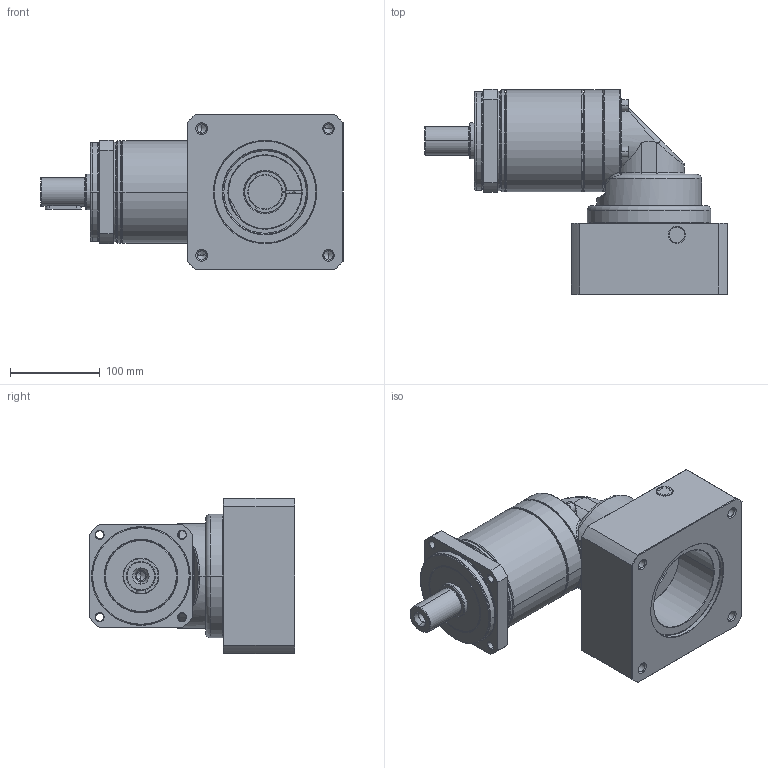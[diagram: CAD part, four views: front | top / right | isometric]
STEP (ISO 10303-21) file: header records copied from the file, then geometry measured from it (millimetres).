
FILE_DESCRIPTION((''),'2;1');
FILE_NAME('PA2R-115_2ST_38-P0411900101_ASM','2016-05-17T',('d01943'),(''),'PRO/ENGINEER BY PARAMETRIC TECHNOLOGY CORPORATION, 2008410','PRO/ENGINEER BY PARAMETRIC TECHNOLOGY CORPORATION, 2008410','');
FILE_SCHEMA(('CONFIG_CONTROL_DESIGN'));
Length unit declared in the file: millimetre
Products named in the file (12): P1327410001; P0251400001; P0350400601; P1349400001; P1017400001; P0713405001; P0503900010; P1350400501; P0411900101; P1702600001; 2111B108035; PA2R-115_2ST_38-P0411900101_ASM
Assembly tree (14 placements, depth 2):
  PA2R-115_2ST_38-P0411900101_ASM
    P1327410001
    P0251400001
    P0350400601
    P1349400001
    P1017400001
    P0713405001
    P0503900010
    P1350400501
    P0411900101
    P1702600001
    2111B108035  x4
Bounding box: 337 x 229 x 174 mm (x, y, z)
Volume: 3532773.4 mm3; surface area: 475003.2 mm2
Topology: 14 solids, 14 shells, 737 faces, 1624 edges, 938 vertices
Faces by surface type: cylinder 218, cone 214, plane 169, torus 104, bspline 32
Entity records: 23514 total; most frequent: CARTESIAN_POINT 9229, DIRECTION 3156, ORIENTED_EDGE 2772, EDGE_CURVE 1386, AXIS2_PLACEMENT_3D 1329, VERTEX_POINT 818, EDGE_LOOP 720, CIRCLE 697
